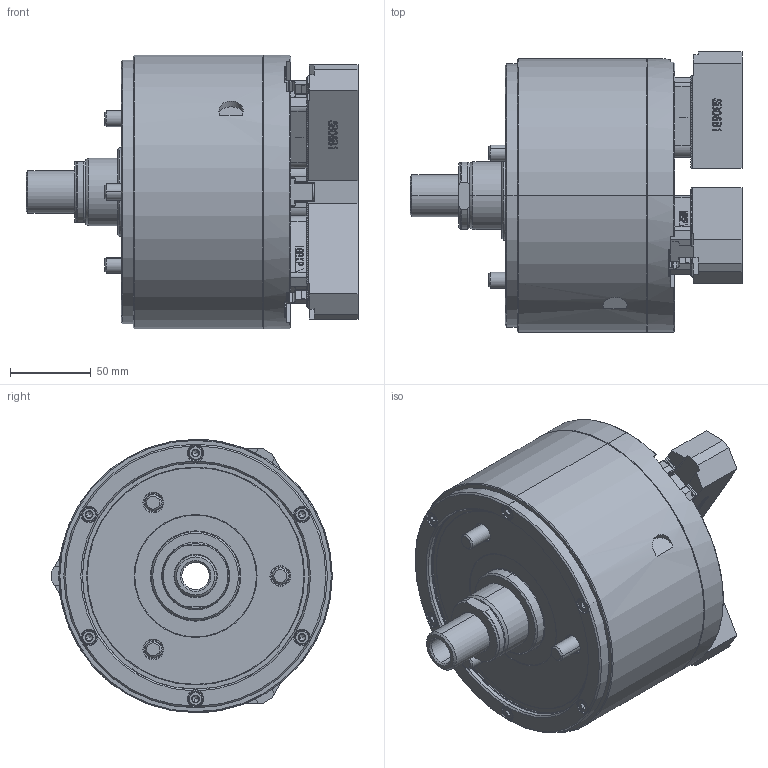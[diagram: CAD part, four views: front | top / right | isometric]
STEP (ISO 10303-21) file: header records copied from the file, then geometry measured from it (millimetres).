
FILE_DESCRIPTION (( 'STEP AP214' ), '1' );
FILE_NAME ('DL206_OC_ID.STEP', '2019-11-07T00:09:10', ( '' ), ( '' ), 'SwSTEP 2.0', 'SolidWorks 2017', '' );
FILE_SCHEMA (( 'AUTOMOTIVE_DESIGN' ));
Length unit declared in the file: millimetre
Products named in the file (5): 結合_ID; 0030110025; 61P456464; 61P385747; DL206_OC_ID
Assembly tree (13 placements, depth 2):
  DL206_OC_ID
    61P385747  x3
    61P456464  x3
    0030110025  x6
    結合_ID
Bounding box: 205.25 x 173.45 x 169 mm (x, y, z)
Volume: 2475847.8 mm3; surface area: 234690.3 mm2
Topology: 13 solids, 13 shells, 5755 faces, 15637 edges, 10183 vertices
Faces by surface type: plane 3617, bspline 1118, cylinder 607, cone 377, torus 32, sphere 4
Entity records: 180520 total; most frequent: CARTESIAN_POINT 69104, ORIENTED_EDGE 25488, DIRECTION 18878, EDGE_CURVE 12744, VECTOR 8928, LINE 8928, VERTEX_POINT 8333, EDGE_LOOP 5027
